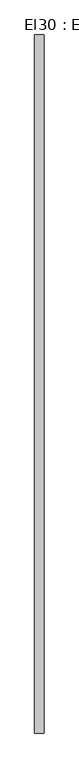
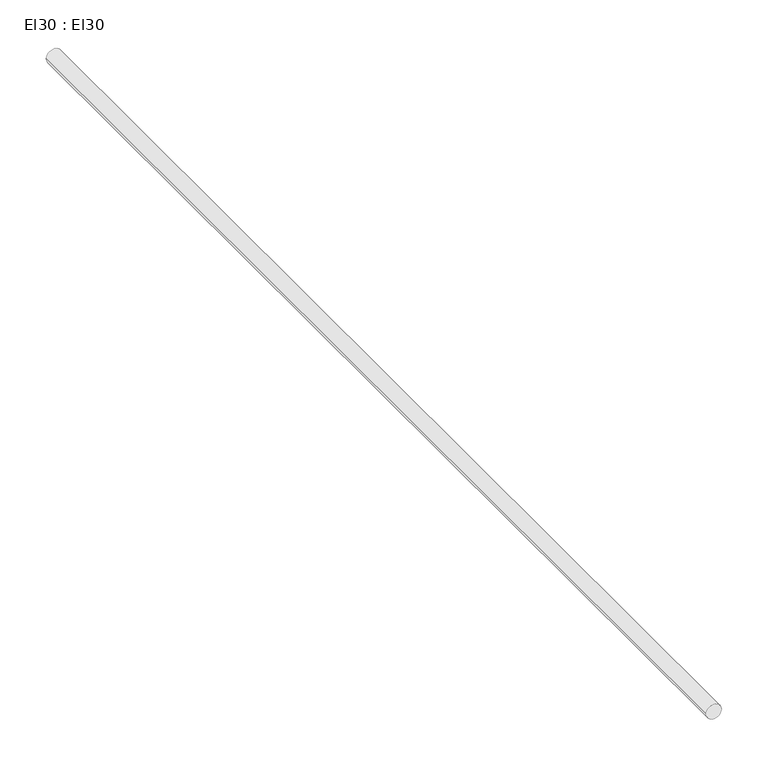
"""IFC4 building model written with IfcOpenShell, lengths in millimetres: cable carrier segment geometry, El30 : El30."""

from ifc_helpers import new_model, si_unit, point, frame, frame_2d, origin, place, context, project, spatial, circle_curve, trimmed, segment, composite_curve, outline, extrude, source, transform, mapped, element, save


def el30_el30_0a59e43a(model_context):
    return source(origin(), model_context, "Body", "SweptSolid", [
        extrude(outline(composite_curve([segment(trimmed(circle_curve(frame_2d((2950.0, 5250.0)), 9.5), [point((2950.0, 5240.5))], [point((2950.0, 5259.5))], False, "CARTESIAN"), True, "CONTINUOUS"), segment(trimmed(circle_curve(frame_2d((2950.0, 5250.0)), 9.5), [point((2950.0, 5259.5))], [point((2950.0, 5240.5))], False, "CARTESIAN"), True, "CONTINUOUS")], self_intersect=False)), frame((0.0, 17651.3, 0.0), z_axis=(0.0, 1.0, 0.0), x_axis=(0.0, 0.0, 1.0)), (0.0, 0.0, 1.0), 1420.0),
    ])


if __name__ == "__main__":
    model = new_model("IFC4")
    model_context = context("Model", 3, world=origin())
    ifc_project = project(units=[si_unit("LENGTHUNIT", "METRE", prefix="MILLI")], contexts=[model_context])
    site = spatial("IfcSite", under=ifc_project)
    building = spatial("IfcBuilding", under=site)
    placement = place(None, origin())
    el30_el30_shape = el30_el30_0a59e43a(model_context)
    element("IfcCableCarrierSegment", 1, ObjectType="El30 : El30", at=placement, inside=building, context=model_context, shape_type="MappedRepresentation", body=[
        mapped(el30_el30_shape, transform((0.0, 0.0, 0.0), x_axis=(1.0, 0.0, 0.0), y_axis=(0.0, 1.0, 0.0), z_axis=(0.0, 0.0, 1.0))),
    ])
    save(model, "model.ifc")
